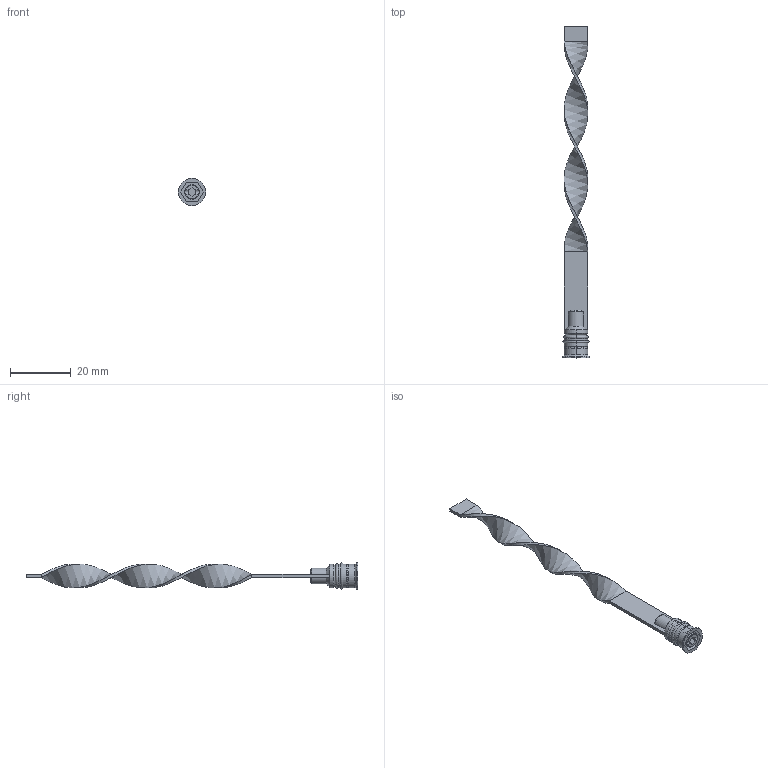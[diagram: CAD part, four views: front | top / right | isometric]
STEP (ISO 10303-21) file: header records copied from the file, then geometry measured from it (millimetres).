
FILE_DESCRIPTION (( 'STEP AP203' ), '1' );
FILE_NAME ('RLS-8Fx100.STEP', '2015-12-04T14:27:26', ( 'Balzi' ), ( '' ), 'SwSTEP 2.0', 'SolidWorks 2015', '' );
FILE_SCHEMA (( 'CONFIG_CONTROL_DESIGN' ));
Length unit declared in the file: millimetre
Products named in the file (1): RLS-8Fx100
Bounding box: 9 x 109.5 x 9 mm (x, y, z)
Volume: 1272.5 mm3; surface area: 2376.1 mm2
Topology: 1 solids, 1 shells, 80 faces, 187 edges, 113 vertices
Faces by surface type: plane 34, cone 17, cylinder 17, torus 8, bspline 4
Entity records: 3273 total; most frequent: CARTESIAN_POINT 1383, DIRECTION 386, ORIENTED_EDGE 374, EDGE_CURVE 187, AXIS2_PLACEMENT_3D 144, VERTEX_POINT 113, VECTOR 98, LINE 98
